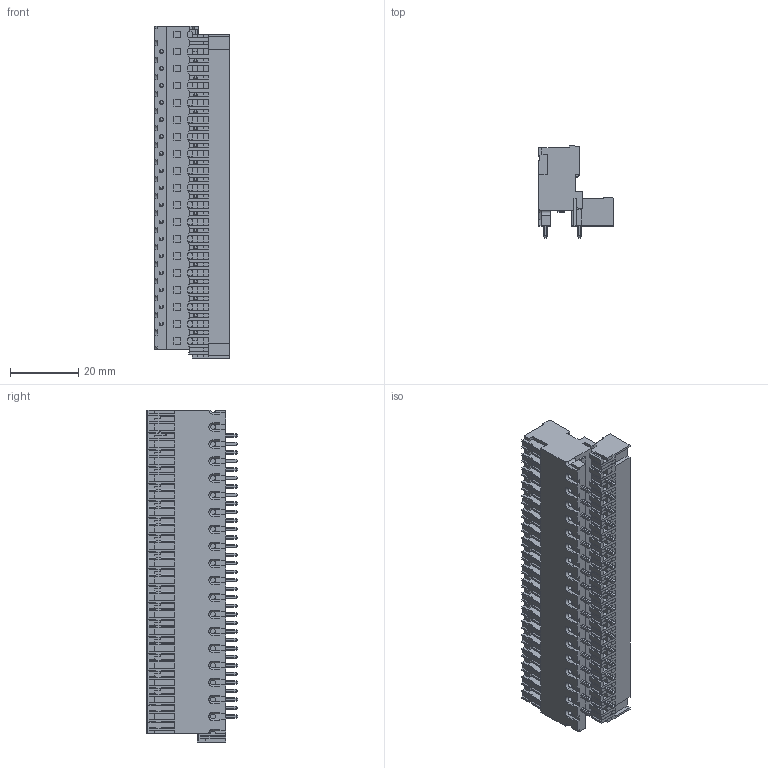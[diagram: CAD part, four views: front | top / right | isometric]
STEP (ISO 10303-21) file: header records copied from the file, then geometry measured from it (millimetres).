
FILE_DESCRIPTION (( 'STEP AP203' ), '1' );
FILE_NAME ('120-M-255-34.STEP', '2017-01-09T18:53:18', ( '' ), ( '' ), 'SwSTEP 2.0', 'SolidWorks 2016', '' );
FILE_SCHEMA (( 'CONFIG_CONTROL_DESIGN' ));
Length unit declared in the file: millimetre
Products named in the file (1): 120-M-255-34
Bounding box: 22 x 26.9 x 97.5 mm (x, y, z)
Volume: 20977.4 mm3; surface area: 19090.1 mm2
Topology: 5 solids, 89 shells, 3755 faces, 9854 edges, 6373 vertices
Faces by surface type: plane 3351, cylinder 276, cone 112, torus 16
Entity records: 113145 total; most frequent: CARTESIAN_POINT 20199, ORIENTED_EDGE 19708, DIRECTION 18050, EDGE_CURVE 9854, VECTOR 9026, LINE 9026, VERTEX_POINT 6373, AXIS2_PLACEMENT_3D 4512
